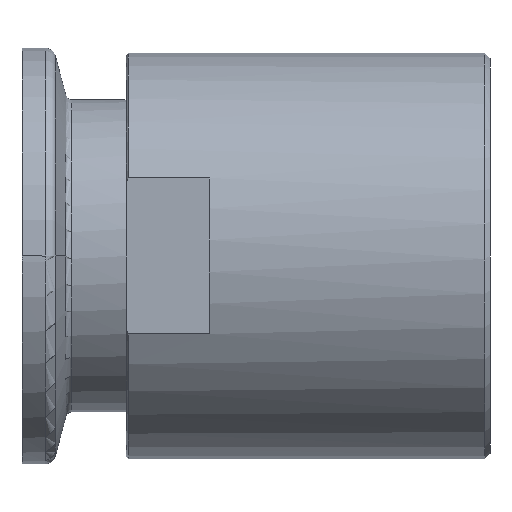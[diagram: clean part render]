
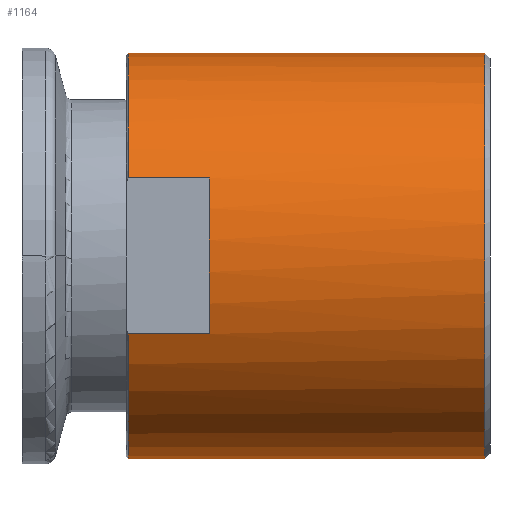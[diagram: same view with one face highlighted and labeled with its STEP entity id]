
A CAD part, front view. The second image highlights one B-rep face of the part: STEP entity #1164.
In plain terms, the highlighted cylindrical face has radius 19.5 mm (diameter 39 mm), a partial arc.
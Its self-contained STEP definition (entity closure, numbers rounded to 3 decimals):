
#114=CARTESIAN_POINT('',(10.2,0.,0.));
#115=DIRECTION('',(-1.,0.,0.));
#116=DIRECTION('',(0.,-0.028,1.));
#117=AXIS2_PLACEMENT_3D('',#114,#115,#116);
#122=CARTESIAN_POINT('',(10.2,0.,0.));
#123=DIRECTION('',(-1.,0.,0.));
#124=DIRECTION('',(0.,-0.923,0.385));
#125=AXIS2_PLACEMENT_3D('',#122,#123,#124);
#172=DIRECTION('',(1.,0.,0.));
#173=VECTOR('',#172,34.3);
#174=CARTESIAN_POINT('',(10.2,0.,19.5));
#175=LINE('',#174,#173);
#193=DIRECTION('',(1.,0.,0.));
#194=VECTOR('',#193,34.3);
#195=CARTESIAN_POINT('',(10.2,0.,-19.5));
#196=LINE('',#195,#194);
#200=DIRECTION('',(-1.,0.,0.));
#201=VECTOR('',#200,7.8);
#202=CARTESIAN_POINT('',(18.,-18.,-7.5));
#203=LINE('',#202,#201);
#207=DIRECTION('',(1.,0.,0.));
#208=VECTOR('',#207,7.8);
#209=CARTESIAN_POINT('',(10.2,-18.,7.5));
#210=LINE('',#209,#208);
#221=CARTESIAN_POINT('',(44.5,0.,0.));
#222=DIRECTION('',(1.,0.,0.));
#223=DIRECTION('',(0.,-0.029,1.));
#224=AXIS2_PLACEMENT_3D('',#221,#222,#223);
#229=CARTESIAN_POINT('',(44.5,0.,0.));
#230=DIRECTION('',(1.,0.,0.));
#231=DIRECTION('',(0.,-0.028,1.));
#232=AXIS2_PLACEMENT_3D('',#229,#230,#231);
#237=CARTESIAN_POINT('',(44.5,0.,0.));
#238=DIRECTION('',(1.,0.,0.));
#239=DIRECTION('',(0.,0.,1.));
#240=AXIS2_PLACEMENT_3D('',#237,#238,#239);
#848=CARTESIAN_POINT('',(10.2,0.,0.));
#849=DIRECTION('',(-1.,0.,0.));
#850=DIRECTION('',(0.,0.,-1.));
#851=AXIS2_PLACEMENT_3D('',#848,#849,#850);
#869=CARTESIAN_POINT('',(10.2,-18.,-7.5));
#874=CARTESIAN_POINT('',(10.2,-18.,7.5));
#891=CARTESIAN_POINT('',(18.,0.,0.));
#892=DIRECTION('',(-1.,0.,0.));
#893=DIRECTION('',(0.,-0.923,-0.385));
#894=AXIS2_PLACEMENT_3D('',#891,#892,#893);
#914=VERTEX_POINT('',#874);
#915=CARTESIAN_POINT('',(10.2,-0.554,19.492));
#916=CARTESIAN_POINT('',(10.2,0.,19.5));
#917=VERTEX_POINT('',#915);
#918=VERTEX_POINT('',#916);
#919=VERTEX_POINT('',#869);
#921=CARTESIAN_POINT('',(10.2,0.,-19.5));
#922=VERTEX_POINT('',#921);
#961=CARTESIAN_POINT('',(18.,-18.,7.5));
#962=CARTESIAN_POINT('',(18.,-18.,-7.5));
#963=VERTEX_POINT('',#961);
#964=VERTEX_POINT('',#962);
#969=CARTESIAN_POINT('',(44.5,0.,-19.5));
#970=VERTEX_POINT('',#969);
#971=CARTESIAN_POINT('',(44.5,0.,19.5));
#972=VERTEX_POINT('',#971);
#973=CARTESIAN_POINT('',(44.5,-0.569,19.492));
#974=VERTEX_POINT('',#973);
#975=CARTESIAN_POINT('',(44.5,-0.554,19.492));
#976=VERTEX_POINT('',#975);
#1139=CARTESIAN_POINT('',(44.5,0.,0.));
#1140=DIRECTION('',(-1.,0.,0.));
#1141=DIRECTION('',(0.,0.028,-1.));
#1142=AXIS2_PLACEMENT_3D('',#1139,#1140,#1141);
#1143=CYLINDRICAL_SURFACE('',#1142,19.5);
#1145=ORIENTED_EDGE('',*,*,#1144,.T.);
#1146=ORIENTED_EDGE('',*,*,#1124,.F.);
#1148=ORIENTED_EDGE('',*,*,#1147,.T.);
#1150=ORIENTED_EDGE('',*,*,#1149,.F.);
#1152=ORIENTED_EDGE('',*,*,#1151,.T.);
#1154=ORIENTED_EDGE('',*,*,#1153,.F.);
#1155=ORIENTED_EDGE('',*,*,#1082,.T.);
#1156=ORIENTED_EDGE('',*,*,#1080,.T.);
#1157=ORIENTED_EDGE('',*,*,#1128,.T.);
#1159=ORIENTED_EDGE('',*,*,#1158,.T.);
#1161=ORIENTED_EDGE('',*,*,#1160,.T.);
#1162=EDGE_LOOP('',(#1145,#1146,#1148,#1150,#1152,#1154,#1155,#1156,#1157,#1159,
#1161));
#1163=FACE_OUTER_BOUND('',#1162,.F.);
#118=CIRCLE('',#117,19.5);
#126=CIRCLE('',#125,19.5);
#225=CIRCLE('',#224,19.5);
#233=CIRCLE('',#232,19.5);
#241=CIRCLE('',#240,19.5);
#852=CIRCLE('',#851,19.5);
#895=CIRCLE('',#894,19.5);
#1080=EDGE_CURVE('',#917,#918,#118,.T.);
#1082=EDGE_CURVE('',#914,#917,#126,.T.);
#1124=EDGE_CURVE('',#922,#970,#196,.T.);
#1128=EDGE_CURVE('',#918,#972,#175,.T.);
#1144=EDGE_CURVE('',#974,#970,#225,.T.);
#1147=EDGE_CURVE('',#922,#919,#852,.T.);
#1149=EDGE_CURVE('',#964,#919,#203,.T.);
#1151=EDGE_CURVE('',#964,#963,#895,.T.);
#1153=EDGE_CURVE('',#914,#963,#210,.T.);
#1158=EDGE_CURVE('',#972,#976,#241,.T.);
#1160=EDGE_CURVE('',#976,#974,#233,.T.);
#1164=ADVANCED_FACE('',(#1163),#1143,.T.);
